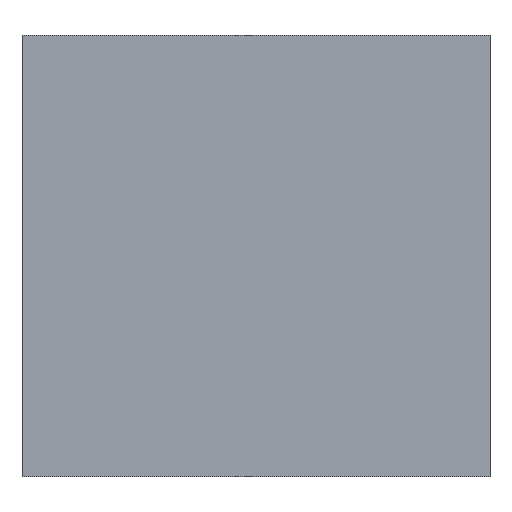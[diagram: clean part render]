
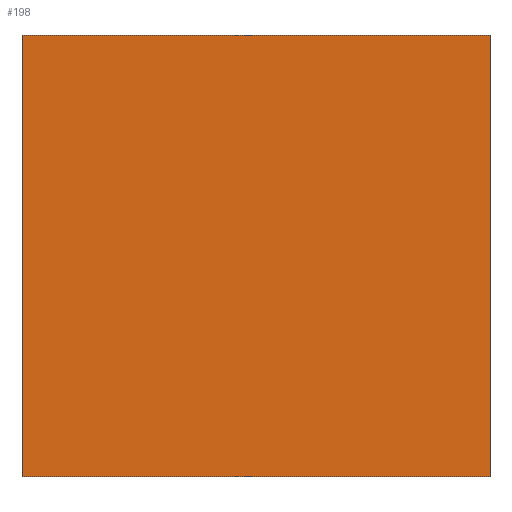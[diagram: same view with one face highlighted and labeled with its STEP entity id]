
A CAD part, top view. The second image highlights one B-rep face of the part: STEP entity #198.
In plain terms, the highlighted planar face has unit normal (0, 0, 1).
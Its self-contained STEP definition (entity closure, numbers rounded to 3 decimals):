
#9 = EDGE_CURVE ( 'NONE', #34, #42, #132, .T. ) ;
#17 = AXIS2_PLACEMENT_3D ( 'NONE', #52, #51, #117 ) ;
#18 = EDGE_CURVE ( 'NONE', #35, #38, #189, .T. ) ;
#19 = EDGE_CURVE ( 'NONE', #42, #35, #153, .T. ) ;
#20 = EDGE_CURVE ( 'NONE', #38, #34, #155, .T. ) ;
#34 = VERTEX_POINT ( 'NONE', #58 ) ;
#35 = VERTEX_POINT ( 'NONE', #79 ) ;
#38 = VERTEX_POINT ( 'NONE', #98 ) ;
#40 = DIRECTION ( 'NONE',  ( -1., 0., 0. ) ) ;
#42 = VERTEX_POINT ( 'NONE', #94 ) ;
#51 = DIRECTION ( 'NONE',  ( 0., 0., -1. ) ) ;
#52 = CARTESIAN_POINT ( 'NONE',  ( -254., 479., 6. ) ) ;
#53 = PLANE ( 'NONE',  #17 ) ;
#57 = CARTESIAN_POINT ( 'NONE',  ( -254., 479., 6. ) ) ;
#58 = CARTESIAN_POINT ( 'NONE',  ( -254., 479., 6. ) ) ;
#63 = DIRECTION ( 'NONE',  ( 0., 1., 0. ) ) ;
#79 = CARTESIAN_POINT ( 'NONE',  ( 254., 0., 6. ) ) ;
#82 = CARTESIAN_POINT ( 'NONE',  ( -254., 0., 6. ) ) ;
#85 = CARTESIAN_POINT ( 'NONE',  ( 254., 0., 6. ) ) ;
#94 = CARTESIAN_POINT ( 'NONE',  ( -254., 0., 6. ) ) ;
#98 = CARTESIAN_POINT ( 'NONE',  ( 254., 479., 6. ) ) ;
#103 = CARTESIAN_POINT ( 'NONE',  ( -254., 0., 6. ) ) ;
#112 = DIRECTION ( 'NONE',  ( 1., 0., 0. ) ) ;
#117 = DIRECTION ( 'NONE',  ( 0., 1., 0. ) ) ;
#118 = DIRECTION ( 'NONE',  ( 0., -1., 0. ) ) ;
#126 = VECTOR ( 'NONE', #63, 1000. ) ;
#127 = FACE_OUTER_BOUND ( 'NONE', #156, .T. ) ;
#132 = LINE ( 'NONE', #82, #144 ) ;
#142 = ORIENTED_EDGE ( 'NONE', *, *, #9, .T. ) ;
#144 = VECTOR ( 'NONE', #118, 1000. ) ;
#153 = LINE ( 'NONE', #103, #157 ) ;
#155 = LINE ( 'NONE', #57, #169 ) ;
#156 = EDGE_LOOP ( 'NONE', ( #142, #168, #159, #188 ) ) ;
#157 = VECTOR ( 'NONE', #112, 1000. ) ;
#159 = ORIENTED_EDGE ( 'NONE', *, *, #18, .T. ) ;
#168 = ORIENTED_EDGE ( 'NONE', *, *, #19, .T. ) ;
#169 = VECTOR ( 'NONE', #40, 1000. ) ;
#188 = ORIENTED_EDGE ( 'NONE', *, *, #20, .T. ) ;
#189 = LINE ( 'NONE', #85, #126 ) ;
#198 = ADVANCED_FACE ( 'NONE', ( #127 ), #53, .F. ) ;
